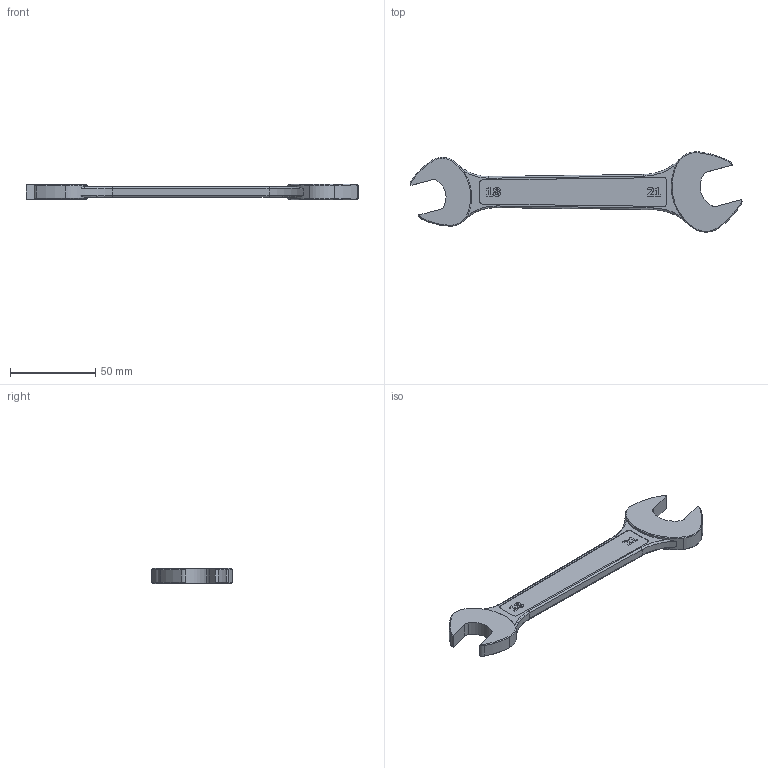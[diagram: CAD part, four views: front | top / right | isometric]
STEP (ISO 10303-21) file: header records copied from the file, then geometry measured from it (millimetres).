
FILE_DESCRIPTION(/* description */ (''),/* implementation_level */ '2;1');
FILE_NAME(/* name */ 'C:\Users\D\Documents\Inventor\各種小物\JIS\02-分解工具\両口スパナ\投稿用\18-21※.stp',/* time_stamp */ '2022-04-20T16:30:08+09:00',/* author */ ('D'),/* organization */ (''),/* preprocessor_version */ 'ST-DEVELOPER v18',/* originating_system */ 'Autodesk Inventor 2020',/* authorisation */ '');
FILE_SCHEMA (('AUTOMOTIVE_DESIGN { 1 0 10303 214 3 1 1 }'));
Length unit declared in the file: millimetre
Products named in the file (1): 17-19
Bounding box: 194.87 x 47.16 x 9 mm (x, y, z)
Volume: 30291.4 mm3; surface area: 12344.4 mm2
Topology: 1 solids, 1 shells, 155 faces, 406 edges, 260 vertices
Faces by surface type: plane 51, bspline 36, cylinder 32, cone 28, torus 8
Entity records: 5132 total; most frequent: CARTESIAN_POINT 1455, ORIENTED_EDGE 812, DIRECTION 670, EDGE_CURVE 406, VERTEX_POINT 260, AXIS2_PLACEMENT_3D 226, LINE 218, VECTOR 218
